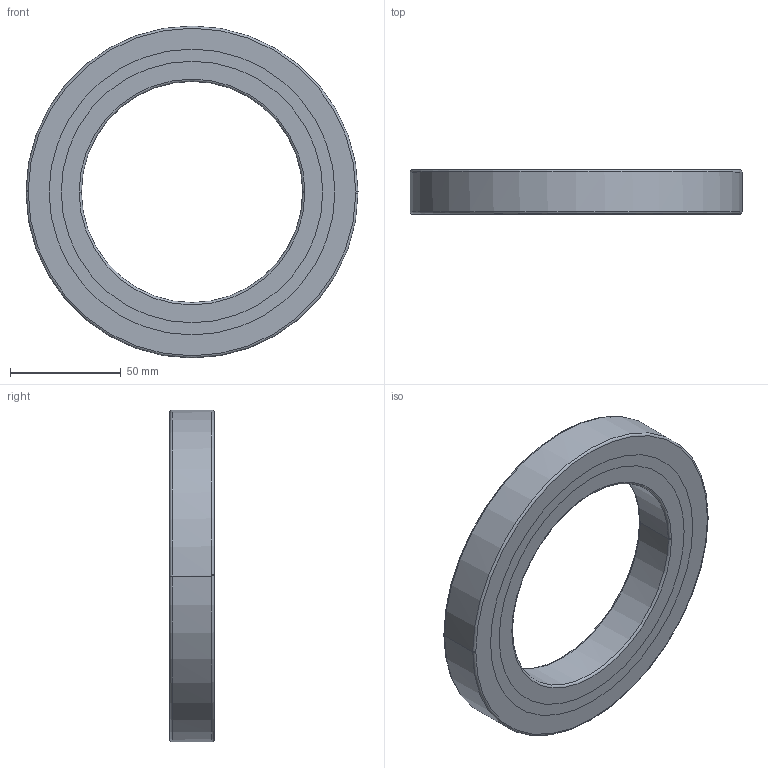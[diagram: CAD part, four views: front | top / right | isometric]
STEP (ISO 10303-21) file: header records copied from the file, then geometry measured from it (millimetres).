
FILE_DESCRIPTION(('no description'),'unknown implementation level');
FILE_NAME('CRBC10020_100.stp',' ',('HIWIN GmbH'),('CADClick - KiM GmbH - www.kimweb.de'),'unknown preprocess','ACIS','unknown authorization');
FILE_SCHEMA(('automotive_design'));
Length unit declared in the file: millimetre
Products named in the file (4): CRBC10020_1; CRBC10020_2; CRBC10020_3; CRBC10020
Bounding box: 150 x 20 x 150 mm (x, y, z)
Volume: 161814.3 mm3; surface area: 57597 mm2
Topology: 4 solids, 4 shells, 40 faces, 88 edges, 56 vertices
Faces by surface type: cylinder 16, torus 16, plane 8
Entity records: 2289 total; most frequent: DIRECTION 248, STYLED_ITEM 188, PRESENTATION_STYLE_ASSIGNMENT 188, CARTESIAN_POINT 188, COLOUR_RGB 188, ORIENTED_EDGE 176, AXIS2_PLACEMENT_3D 116, EDGE_CURVE 88
